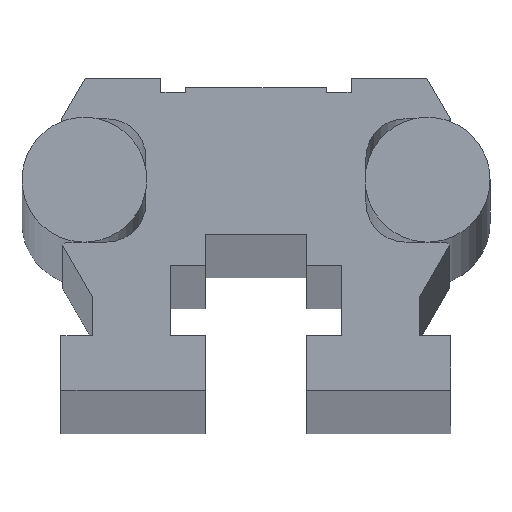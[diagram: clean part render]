
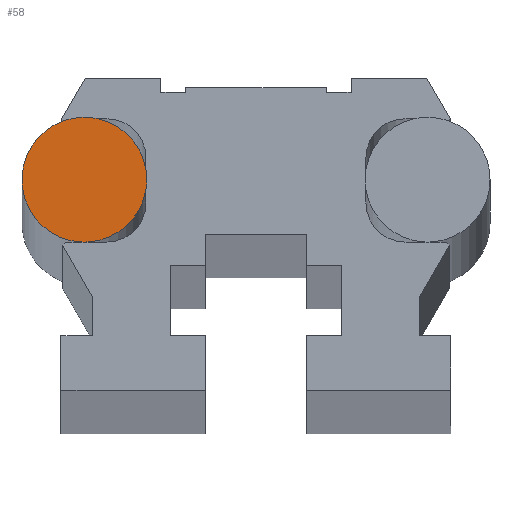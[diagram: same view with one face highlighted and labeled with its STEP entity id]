
A CAD part, top view. The second image highlights one B-rep face of the part: STEP entity #58.
In plain terms, the highlighted planar face has unit normal (0, 0, 1).
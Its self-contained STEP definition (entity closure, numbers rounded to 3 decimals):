
#3 = EDGE_CURVE ( 'NONE', #228, #209, #918, .T. ) ;
#58 = ADVANCED_FACE ( 'NONE', ( #866 ), #865, .T. ) ;
#59 = EDGE_LOOP ( 'NONE', ( #60, #61, #62, #63, #64, #65, #66 ) ) ;
#60 = ORIENTED_EDGE ( 'NONE', *, *, #364, .T. ) ;
#61 = ORIENTED_EDGE ( 'NONE', *, *, #71, .T. ) ;
#62 = ORIENTED_EDGE ( 'NONE', *, *, #258, .F. ) ;
#63 = ORIENTED_EDGE ( 'NONE', *, *, #78, .T. ) ;
#64 = ORIENTED_EDGE ( 'NONE', *, *, #230, .T. ) ;
#65 = ORIENTED_EDGE ( 'NONE', *, *, #3, .T. ) ;
#66 = ORIENTED_EDGE ( 'NONE', *, *, #208, .T. ) ;
#71 = EDGE_CURVE ( 'NONE', #242, #259, #1110, .T. ) ;
#78 = EDGE_CURVE ( 'NONE', #91, #231, #1099, .T. ) ;
#91 = VERTEX_POINT ( 'NONE', #1220 ) ;
#208 = EDGE_CURVE ( 'NONE', #209, #210, #1127, .T. ) ;
#209 = VERTEX_POINT ( 'NONE', #1118 ) ;
#210 = VERTEX_POINT ( 'NONE', #1117 ) ;
#228 = VERTEX_POINT ( 'NONE', #1469 ) ;
#230 = EDGE_CURVE ( 'NONE', #231, #228, #1468, .T. ) ;
#231 = VERTEX_POINT ( 'NONE', #1463 ) ;
#242 = VERTEX_POINT ( 'NONE', #1441 ) ;
#258 = EDGE_CURVE ( 'NONE', #91, #259, #1504, .T. ) ;
#259 = VERTEX_POINT ( 'NONE', #1435 ) ;
#364 = EDGE_CURVE ( 'NONE', #210, #242, #1764, .T. ) ;
#861 = DIRECTION ( 'NONE',  ( 0., 0., 1. ) ) ;
#862 = CARTESIAN_POINT ( 'NONE',  ( -11., 13.5, -1.5 ) ) ;
#863 = AXIS2_PLACEMENT_3D ( 'NONE', #862, #861, #1112 ) ;
#865 = PLANE ( 'NONE',  #863 ) ;
#866 = FACE_OUTER_BOUND ( 'NONE', #59, .T. ) ;
#914 = DIRECTION ( 'NONE',  ( 1., 0., 0. ) ) ;
#915 = DIRECTION ( 'NONE',  ( 0., 0., 1. ) ) ;
#916 = CARTESIAN_POINT ( 'NONE',  ( -11., 13.5, -1.5 ) ) ;
#917 = AXIS2_PLACEMENT_3D ( 'NONE', #916, #915, #914 ) ;
#918 = CIRCLE ( 'NONE', #917, 4. ) ;
#1096 = DIRECTION ( 'NONE',  ( 1., 0., 0. ) ) ;
#1097 = DIRECTION ( 'NONE',  ( 0., 0., 1. ) ) ;
#1098 = AXIS2_PLACEMENT_3D ( 'NONE', #1104, #1097, #1096 ) ;
#1099 = CIRCLE ( 'NONE', #1098, 4. ) ;
#1104 = CARTESIAN_POINT ( 'NONE',  ( -11., 13.5, -1.5 ) ) ;
#1106 = DIRECTION ( 'NONE',  ( 1., 0., 0. ) ) ;
#1107 = DIRECTION ( 'NONE',  ( 0., 0., 1. ) ) ;
#1108 = CARTESIAN_POINT ( 'NONE',  ( -11., 13.5, -1.5 ) ) ;
#1109 = AXIS2_PLACEMENT_3D ( 'NONE', #1108, #1107, #1106 ) ;
#1110 = CIRCLE ( 'NONE', #1109, 4. ) ;
#1112 = DIRECTION ( 'NONE',  ( 1., 0., 0. ) ) ;
#1117 = CARTESIAN_POINT ( 'NONE',  ( -7.05, 14.13, -1.5 ) ) ;
#1118 = CARTESIAN_POINT ( 'NONE',  ( -7., 13.5, -1.5 ) ) ;
#1119 = DIRECTION ( 'NONE',  ( 1., 0., 0. ) ) ;
#1120 = DIRECTION ( 'NONE',  ( 0., 0., 1. ) ) ;
#1121 = CARTESIAN_POINT ( 'NONE',  ( -11., 13.5, -1.5 ) ) ;
#1122 = AXIS2_PLACEMENT_3D ( 'NONE', #1121, #1120, #1119 ) ;
#1127 = CIRCLE ( 'NONE', #1122, 4. ) ;
#1220 = CARTESIAN_POINT ( 'NONE',  ( -11.25, 9.508, -1.5 ) ) ;
#1435 = CARTESIAN_POINT ( 'NONE',  ( -12.324, 17.275, -1.5 ) ) ;
#1441 = CARTESIAN_POINT ( 'NONE',  ( -10.111, 17.4, -1.5 ) ) ;
#1463 = CARTESIAN_POINT ( 'NONE',  ( -10.75, 9.508, -1.5 ) ) ;
#1464 = DIRECTION ( 'NONE',  ( 1., 0., 0. ) ) ;
#1465 = DIRECTION ( 'NONE',  ( 0., 0., 1. ) ) ;
#1466 = CARTESIAN_POINT ( 'NONE',  ( -11., 13.5, -1.5 ) ) ;
#1467 = AXIS2_PLACEMENT_3D ( 'NONE', #1466, #1465, #1464 ) ;
#1468 = CIRCLE ( 'NONE', #1467, 4. ) ;
#1469 = CARTESIAN_POINT ( 'NONE',  ( -7.05, 12.87, -1.5 ) ) ;
#1500 = DIRECTION ( 'NONE',  ( 1., 0., 0. ) ) ;
#1501 = DIRECTION ( 'NONE',  ( 0., 0., -1. ) ) ;
#1502 = CARTESIAN_POINT ( 'NONE',  ( -11., 13.5, -1.5 ) ) ;
#1503 = AXIS2_PLACEMENT_3D ( 'NONE', #1502, #1501, #1500 ) ;
#1504 = CIRCLE ( 'NONE', #1503, 4. ) ;
#1760 = DIRECTION ( 'NONE',  ( 1., 0., 0. ) ) ;
#1761 = DIRECTION ( 'NONE',  ( 0., 0., 1. ) ) ;
#1762 = CARTESIAN_POINT ( 'NONE',  ( -11., 13.5, -1.5 ) ) ;
#1763 = AXIS2_PLACEMENT_3D ( 'NONE', #1762, #1761, #1760 ) ;
#1764 = CIRCLE ( 'NONE', #1763, 4. ) ;
